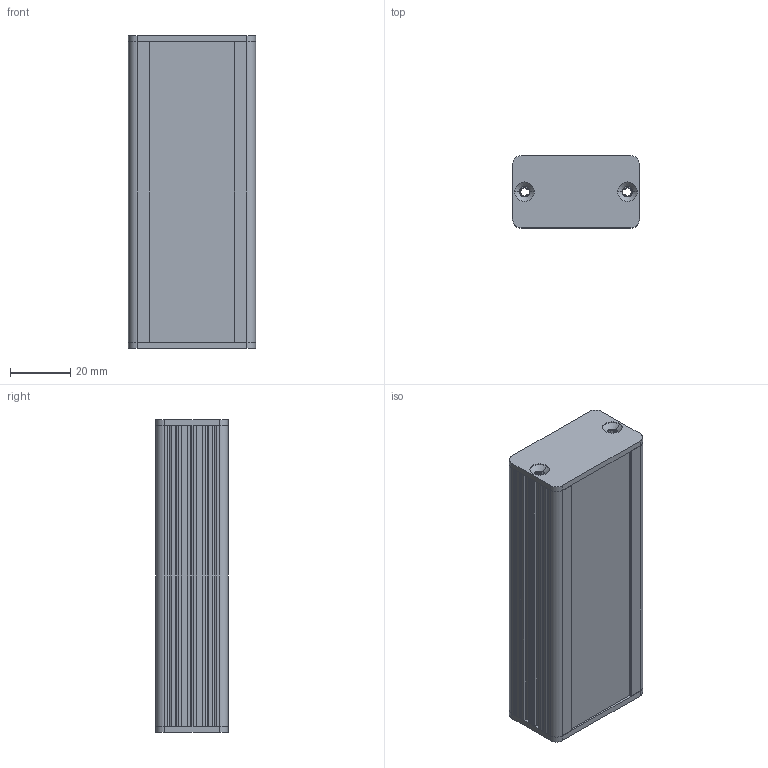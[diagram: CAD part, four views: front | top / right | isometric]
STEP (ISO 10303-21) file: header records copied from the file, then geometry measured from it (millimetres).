
FILE_DESCRIPTION (( 'STEP AP203' ), '1' );
FILE_NAME ('AL-042-10.STEP', '2026-01-23T07:35:47', ( '' ), ( '' ), 'SwSTEP 2.0', 'SolidWorks 2021', '' );
FILE_SCHEMA (( 'CONFIG_CONTROL_DESIGN' ));
Length unit declared in the file: millimetre
Products named in the file (3): AL-042-30_1; AP-042; AL-042-10
Assembly tree (3 placements, depth 2):
  AL-042-10
    AP-042
    AL-042-30_1  x2
Bounding box: 42.3 x 24 x 104 mm (x, y, z)
Volume: 29673.5 mm3; surface area: 33090.5 mm2
Topology: 3 solids, 3 shells, 250 faces, 716 edges, 472 vertices
Faces by surface type: cylinder 160, plane 82, cone 8
Entity records: 8009 total; most frequent: DIRECTION 1428, CARTESIAN_POINT 1338, ORIENTED_EDGE 1328, EDGE_CURVE 664, AXIS2_PLACEMENT_3D 530, VERTEX_POINT 440, LINE 368, VECTOR 368
